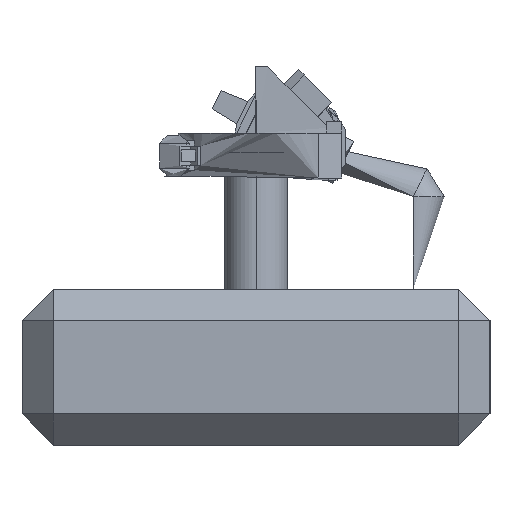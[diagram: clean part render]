
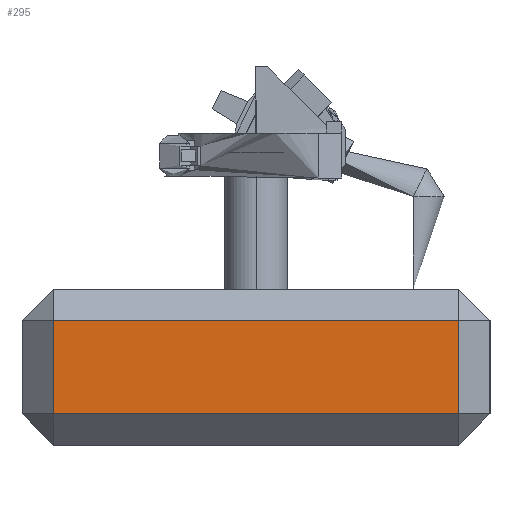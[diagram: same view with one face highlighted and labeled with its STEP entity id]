
A CAD part, left-side view. The second image highlights one B-rep face of the part: STEP entity #295.
In plain terms, the highlighted planar face has unit normal (-1, 0, 0).
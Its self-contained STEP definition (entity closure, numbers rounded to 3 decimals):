
#295=ADVANCED_FACE('',(#756),#7161,.T.);
#756=FACE_OUTER_BOUND('',#1228,.T.);
#1228=EDGE_LOOP('',(#2744,#2745,#2746,#2747));
#2744=ORIENTED_EDGE('',*,*,#4436,.F.);
#2745=ORIENTED_EDGE('',*,*,#4434,.T.);
#2746=ORIENTED_EDGE('',*,*,#4435,.F.);
#2747=ORIENTED_EDGE('',*,*,#4433,.F.);
#4433=EDGE_CURVE('',#6533,#6534,#5868,.T.);
#4434=EDGE_CURVE('',#6535,#6536,#5869,.T.);
#4435=EDGE_CURVE('',#6534,#6536,#5870,.T.);
#4436=EDGE_CURVE('',#6535,#6533,#5871,.T.);
#5868=B_SPLINE_CURVE_WITH_KNOTS('',1,(#11487,#11488),.UNSPECIFIED.,.F.,
 .F.,(2,2),(0.4,5.6),.UNSPECIFIED.);
#5869=B_SPLINE_CURVE_WITH_KNOTS('',1,(#11489,#11490),.UNSPECIFIED.,.F.,
 .F.,(2,2),(0.4,5.6),.UNSPECIFIED.);
#5870=B_SPLINE_CURVE_WITH_KNOTS('',1,(#11491,#11492),.UNSPECIFIED.,.F.,
 .F.,(2,2),(0.4,1.6),.UNSPECIFIED.);
#5871=B_SPLINE_CURVE_WITH_KNOTS('',1,(#11493,#11494),.UNSPECIFIED.,.F.,
 .F.,(2,2),(0.4,1.6),.UNSPECIFIED.);
#6533=VERTEX_POINT('',#11463);
#6534=VERTEX_POINT('',#11464);
#6535=VERTEX_POINT('',#11465);
#6536=VERTEX_POINT('',#11466);
#7161=PLANE('',#7569);
#7569=AXIS2_PLACEMENT_3D('',#11413,#7920,$);
#7920=DIRECTION('',(-1.,0.,0.));
#11413=CARTESIAN_POINT('',(-12.,-3.,2.));
#11463=CARTESIAN_POINT('',(-12.,-2.6,0.4));
#11464=CARTESIAN_POINT('',(-12.,2.6,0.4));
#11465=CARTESIAN_POINT('',(-12.,-2.6,1.6));
#11466=CARTESIAN_POINT('',(-12.,2.6,1.6));
#11487=CARTESIAN_POINT('',(-12.,-2.6,0.4));
#11488=CARTESIAN_POINT('',(-12.,2.6,0.4));
#11489=CARTESIAN_POINT('',(-12.,-2.6,1.6));
#11490=CARTESIAN_POINT('',(-12.,2.6,1.6));
#11491=CARTESIAN_POINT('',(-12.,2.6,0.4));
#11492=CARTESIAN_POINT('',(-12.,2.6,1.6));
#11493=CARTESIAN_POINT('',(-12.,-2.6,1.6));
#11494=CARTESIAN_POINT('',(-12.,-2.6,0.4));
